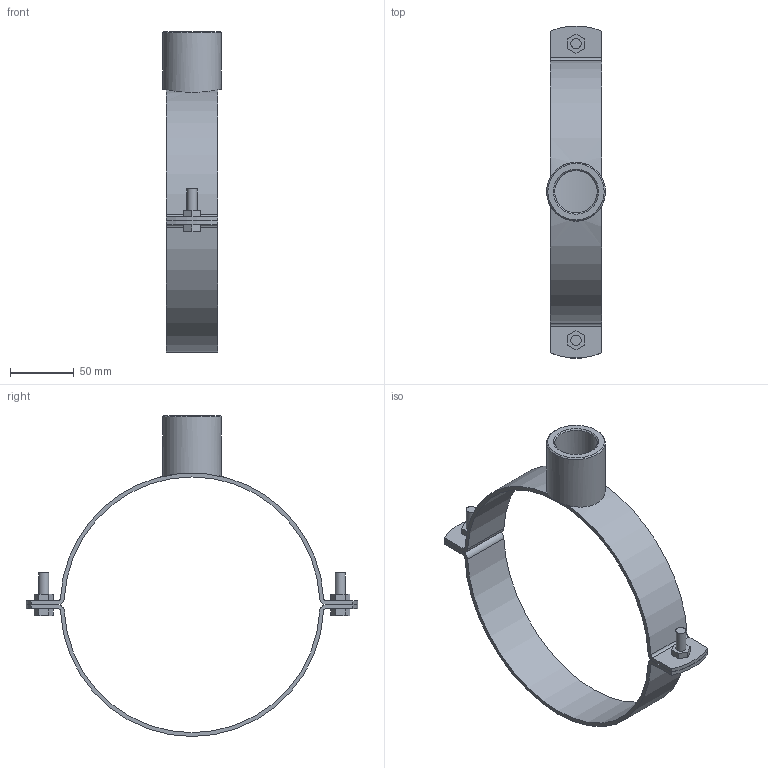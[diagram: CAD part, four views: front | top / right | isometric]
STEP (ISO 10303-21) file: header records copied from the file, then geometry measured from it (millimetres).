
FILE_DESCRIPTION(/* description */ (''),/* implementation_level */ '2;1');
FILE_NAME(/* name */ 'H:\Geberit-Teile\Export\Rohrschelle G1\stp\370840.stp',/* time_stamp */ '2018-06-13T08:49:10+02:00',/* author */ ('seihe2'),/* organization */ (''),/* preprocessor_version */ 'ST-DEVELOPER v15.2',/* originating_system */ 'Autodesk Inventor 2014',/* authorisation */ '');
FILE_SCHEMA (('AUTOMOTIVE_DESIGN { 1 0 10303 214 3 1 1 }'));
Length unit declared in the file: millimetre
Products named in the file (1): 370840
Bounding box: 46 x 259.66 x 251 mm (x, y, z)
Volume: 129188.3 mm3; surface area: 76653.1 mm2
Topology: 1 solids, 1 shells, 71 faces, 176 edges, 116 vertices
Faces by surface type: plane 43, cylinder 26, cone 2
Full cylindrical faces by diameter (mm): 8 x4, 33.249 x1, 46 x1
Entity records: 2284 total; most frequent: CARTESIAN_POINT 494, DIRECTION 352, ORIENTED_EDGE 332, EDGE_CURVE 166, AXIS2_PLACEMENT_3D 120, VERTEX_POINT 114, LINE 112, VECTOR 112
